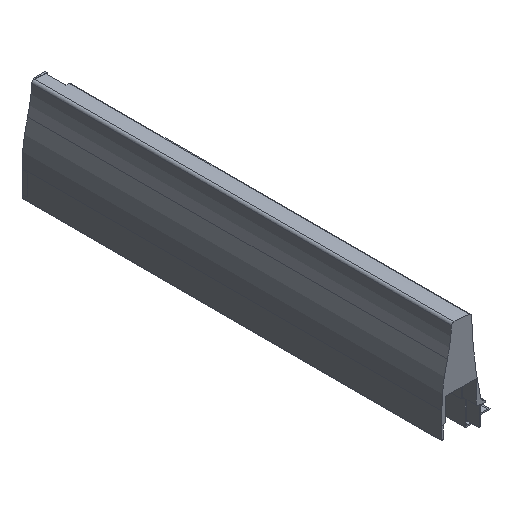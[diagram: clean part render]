
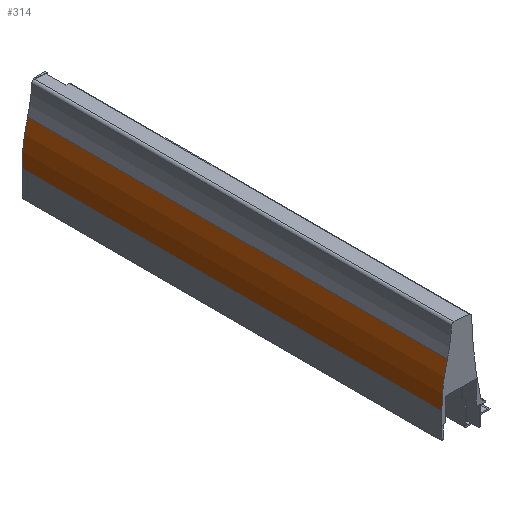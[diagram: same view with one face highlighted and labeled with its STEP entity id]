
A CAD part, isometric view. The second image highlights one B-rep face of the part: STEP entity #314.
In plain terms, the highlighted cylindrical face has radius 130.3 mm (diameter 260.6 mm), a partial arc.
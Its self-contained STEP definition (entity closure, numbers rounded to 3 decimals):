
#15 = CARTESIAN_POINT ( 'NONE',  ( 126.2, 0., -7.695 ) ) ;
#27 = DIRECTION ( 'NONE',  ( 0., -1., 0. ) ) ;
#28 = DIRECTION ( 'NONE',  ( 1., 0., 0. ) ) ;
#134 = CARTESIAN_POINT ( 'NONE',  ( 0.401, 340., 26.255 ) ) ;
#135 = DIRECTION ( 'NONE',  ( 0., -1., 0. ) ) ;
#314 = ADVANCED_FACE ( 'NONE', ( #440 ), #443, .T. ) ;
#440 = FACE_OUTER_BOUND ( 'NONE', #1369, .T. ) ;
#443 = CYLINDRICAL_SURFACE ( 'NONE', #3280, 130.3 ) ;
#741 = LINE ( 'NONE', #2927, #742 ) ;
#742 = VECTOR ( 'NONE', #2928, 1000. ) ;
#786 = CIRCLE ( 'NONE', #3232, 130.3 ) ;
#908 = CIRCLE ( 'NONE', #3124, 130.3 ) ;
#997 = LINE ( 'NONE', #134, #998 ) ;
#998 = VECTOR ( 'NONE', #135, 1000. ) ;
#1369 = EDGE_LOOP ( 'NONE', ( #1888, #1889, #1887, #1890 ) ) ;
#1887 = ORIENTED_EDGE ( 'NONE', *, *, #3228, .T. ) ;
#1888 = ORIENTED_EDGE ( 'NONE', *, *, #3330, .F. ) ;
#1889 = ORIENTED_EDGE ( 'NONE', *, *, #3434, .F. ) ;
#1890 = ORIENTED_EDGE ( 'NONE', *, *, #3203, .T. ) ;
#1963 = CARTESIAN_POINT ( 'NONE',  ( -4.1, 340., -7.695 ) ) ;
#1964 = CARTESIAN_POINT ( 'NONE',  ( 0.401, 340., 26.255 ) ) ;
#2459 = DIRECTION ( 'NONE',  ( -1., 0., 0. ) ) ;
#2460 = DIRECTION ( 'NONE',  ( 0., -1., 0. ) ) ;
#2461 = CARTESIAN_POINT ( 'NONE',  ( 126.2, 340., -7.695 ) ) ;
#2516 = CARTESIAN_POINT ( 'NONE',  ( 0.401, 0., 26.255 ) ) ;
#2517 = CARTESIAN_POINT ( 'NONE',  ( -4.1, 0., -7.695 ) ) ;
#2719 = VERTEX_POINT ( 'NONE', #1963 ) ;
#2720 = VERTEX_POINT ( 'NONE', #1964 ) ;
#2785 = VERTEX_POINT ( 'NONE', #2516 ) ;
#2786 = VERTEX_POINT ( 'NONE', #2517 ) ;
#2927 = CARTESIAN_POINT ( 'NONE',  ( -4.1, 340., -7.695 ) ) ;
#2928 = DIRECTION ( 'NONE',  ( 0., -1., 0. ) ) ;
#2984 = CARTESIAN_POINT ( 'NONE',  ( 126.2, 340., -7.695 ) ) ;
#2986 = DIRECTION ( 'NONE',  ( 0., -1., 0. ) ) ;
#2987 = DIRECTION ( 'NONE',  ( 1., 0., 0. ) ) ;
#3124 = AXIS2_PLACEMENT_3D ( 'NONE', #15, #27, #28 ) ;
#3203 = EDGE_CURVE ( 'NONE', #2719, #2786, #741, .T. ) ;
#3228 = EDGE_CURVE ( 'NONE', #2720, #2719, #786, .T. ) ;
#3232 = AXIS2_PLACEMENT_3D ( 'NONE', #2984, #2986, #2987 ) ;
#3280 = AXIS2_PLACEMENT_3D ( 'NONE', #2461, #2460, #2459 ) ;
#3330 = EDGE_CURVE ( 'NONE', #2785, #2786, #908, .T. ) ;
#3434 = EDGE_CURVE ( 'NONE', #2720, #2785, #997, .T. ) ;
